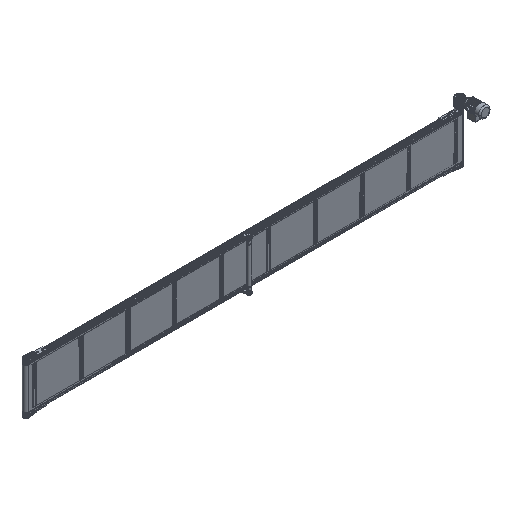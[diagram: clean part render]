
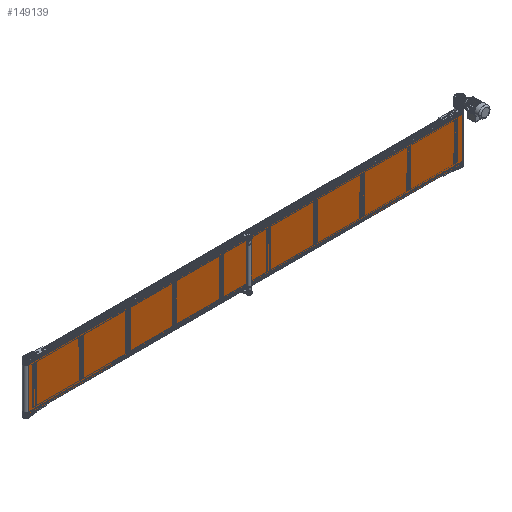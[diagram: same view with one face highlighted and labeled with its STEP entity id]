
A CAD part, isometric view. The second image highlights one B-rep face of the part: STEP entity #149139.
In plain terms, the highlighted planar face has unit normal (0, -1, 0).
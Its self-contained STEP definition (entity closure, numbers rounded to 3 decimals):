
#9401 = VERTEX_POINT ( 'NONE', #124843 ) ;
#17073 = VECTOR ( 'NONE', #18793, 1000. ) ;
#18793 = DIRECTION ( 'NONE',  ( 1., 0., 0. ) ) ;
#20413 = DIRECTION ( 'NONE',  ( 0., 0., -1. ) ) ;
#27084 = CARTESIAN_POINT ( 'NONE',  ( 2175., -27., -225. ) ) ;
#30223 = PLANE ( 'NONE',  #32866 ) ;
#32866 = AXIS2_PLACEMENT_3D ( 'NONE', #82841, #135469, #167094 ) ;
#35896 = CARTESIAN_POINT ( 'NONE',  ( 2175., -27., 225. ) ) ;
#38760 = CARTESIAN_POINT ( 'NONE',  ( -2175., -27., 225. ) ) ;
#46184 = VERTEX_POINT ( 'NONE', #83791 ) ;
#51333 = EDGE_CURVE ( 'NONE', #46184, #9401, #80145, .T. ) ;
#69443 = CARTESIAN_POINT ( 'NONE',  ( 2175., -27., 225. ) ) ;
#70324 = CARTESIAN_POINT ( 'NONE',  ( -2175., -27., 225. ) ) ;
#71148 = DIRECTION ( 'NONE',  ( 1., 0., 0. ) ) ;
#80145 = LINE ( 'NONE', #38760, #168064 ) ;
#82841 = CARTESIAN_POINT ( 'NONE',  ( -2175., -27., 225. ) ) ;
#83791 = CARTESIAN_POINT ( 'NONE',  ( -2175., -27., 225. ) ) ;
#84378 = LINE ( 'NONE', #149073, #17073 ) ;
#85794 = VERTEX_POINT ( 'NONE', #69443 ) ;
#86756 = EDGE_CURVE ( 'NONE', #85794, #116289, #102345, .T. ) ;
#93964 = DIRECTION ( 'NONE',  ( 0., 0., -1. ) ) ;
#102345 = LINE ( 'NONE', #35896, #170370 ) ;
#106511 = ORIENTED_EDGE ( 'NONE', *, *, #163998, .T. ) ;
#110338 = ORIENTED_EDGE ( 'NONE', *, *, #168693, .F. ) ;
#116289 = VERTEX_POINT ( 'NONE', #27084 ) ;
#124843 = CARTESIAN_POINT ( 'NONE',  ( -2175., -27., -225. ) ) ;
#135469 = DIRECTION ( 'NONE',  ( 0., 1., 0. ) ) ;
#136084 = EDGE_LOOP ( 'NONE', ( #106511, #142310, #110338, #144338 ) ) ;
#142310 = ORIENTED_EDGE ( 'NONE', *, *, #86756, .F. ) ;
#144338 = ORIENTED_EDGE ( 'NONE', *, *, #51333, .T. ) ;
#148372 = FACE_OUTER_BOUND ( 'NONE', #136084, .T. ) ;
#148795 = LINE ( 'NONE', #70324, #158314 ) ;
#149073 = CARTESIAN_POINT ( 'NONE',  ( -2175., -27., -225. ) ) ;
#149139 = ADVANCED_FACE ( 'NONE', ( #148372 ), #30223, .F. ) ;
#158314 = VECTOR ( 'NONE', #71148, 1000. ) ;
#163998 = EDGE_CURVE ( 'NONE', #9401, #116289, #84378, .T. ) ;
#167094 = DIRECTION ( 'NONE',  ( 0., 0., 1. ) ) ;
#168064 = VECTOR ( 'NONE', #93964, 1000. ) ;
#168693 = EDGE_CURVE ( 'NONE', #46184, #85794, #148795, .T. ) ;
#170370 = VECTOR ( 'NONE', #20413, 1000. ) ;
